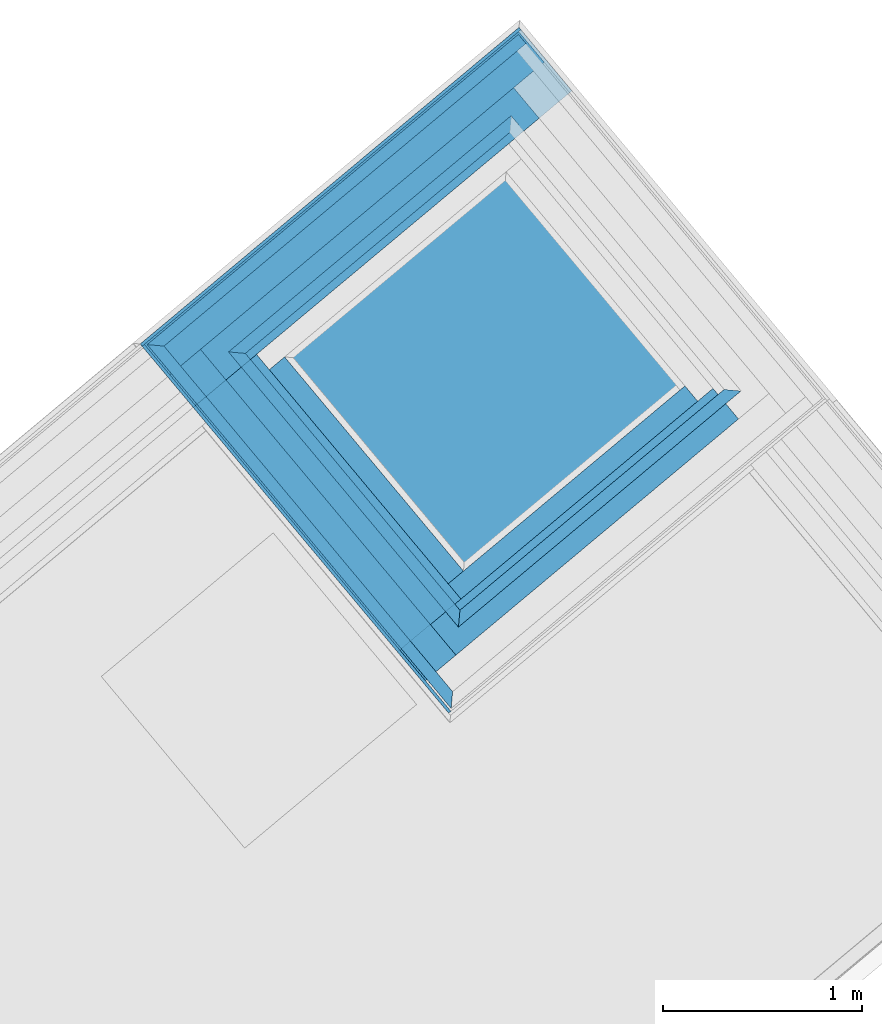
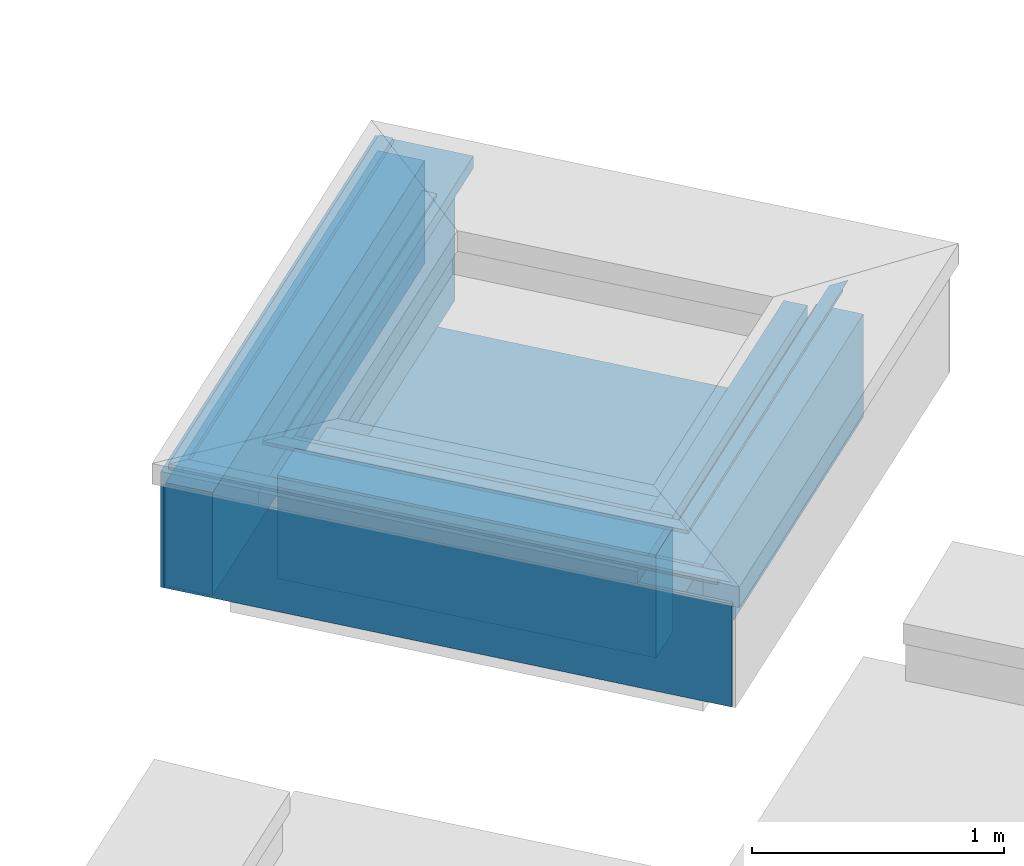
# One storey, part 11 of 15: 17 building element parts, 4 elements without a shape of their own.
"""IFC4 building model written with IfcOpenShell, lengths in metres."""

from ifc_helpers import new_model, entity, si_unit, converted_unit, derived_unit, direction, frame, origin_with_axes, place, context, subcontext, project, spatial, polygons, material, type_object, element, aggregate, save


model = new_model("IFC4")

# Units and contexts
model_context = context("Model", 3, precision=1e-05, world=origin_with_axes(), true_north=direction((0.0, 1.0)))
body_context = subcontext(model_context, "Body", "Model", "MODEL_VIEW")
ifc_project = project(units=[si_unit("LENGTHUNIT", "METRE"), si_unit("AREAUNIT", "SQUARE_METRE"), si_unit("VOLUMEUNIT", "CUBIC_METRE"), converted_unit("PLANEANGLEUNIT", "DEGREE", entity("IfcPlaneAngleMeasure", 0.0174532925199), si_unit("PLANEANGLEUNIT", "RADIAN"), dimensions=[0, 0, 0, 0, 0, 0, 0]), converted_unit("TIMEUNIT", "Year", entity("IfcTimeMeasure", 31556926.0), si_unit("TIMEUNIT", "SECOND"), dimensions=[0, 0, 1, 0, 0, 0, 0]), si_unit("MASSUNIT", "GRAM", prefix="KILO"), si_unit("THERMODYNAMICTEMPERATUREUNIT", "DEGREE_CELSIUS"), si_unit("LUMINOUSINTENSITYUNIT", "LUMEN"), si_unit("ENERGYUNIT", "JOULE", prefix="MEGA"), derived_unit("THERMALCONDUCTANCEUNIT", [(si_unit("POWERUNIT", "WATT"), 1), (si_unit("LENGTHUNIT", "METRE"), -1), (si_unit("THERMODYNAMICTEMPERATUREUNIT", "KELVIN"), -1)]), derived_unit("SPECIFICHEATCAPACITYUNIT", [(si_unit("ENERGYUNIT", "JOULE"), 1), (si_unit("MASSUNIT", "GRAM", prefix="KILO"), -1), (si_unit("THERMODYNAMICTEMPERATUREUNIT", "KELVIN"), -1)]), derived_unit("MASSDENSITYUNIT", [(si_unit("MASSUNIT", "GRAM", prefix="KILO"), 1), (si_unit("VOLUMEUNIT", "CUBIC_METRE"), -1)])], contexts=[model_context])

# Site, building, storey
site_placement = place(None, frame((-0.00153261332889, -0.00661245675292, 0.0), z_axis=(0.0, 0.0, 1.0), x_axis=(1.0, 0.0, 0.0)))
site = spatial("IfcSite", under=ifc_project, at=site_placement, Name="Site", CompositionType="ELEMENT")
building_placement = place(site_placement, origin_with_axes())
building = spatial("IfcBuilding", under=site, at=building_placement, Name="Building", CompositionType="ELEMENT")
storey_placement = place(building_placement, frame((0.0, 0.0, 11.84), z_axis=(0.0, 0.0, 1.0), x_axis=(1.0, 0.0, 0.0)))
storey = spatial("IfcBuildingStorey", under=building, at=storey_placement, Name="DA", CompositionType="ELEMENT", Elevation=11.84)

# Wall, building element parts
wall_type = type_object("IfcWallType", Name="Bauteil - Attika 574 x 610", PredefinedType="NOTDEFINED")
wall_1_placement = place(storey_placement, frame((1.33818690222, 24.5040825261, 0.96), z_axis=(0.0, 0.0, 1.0), x_axis=(0.767364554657, 0.641211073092, 0.0)))
wall_1 = element("IfcWall", 1, at=wall_1_placement, inside=storey, type_object=wall_type, Name="Wand-002", PredefinedType="NOTDEFINED")
ifc_material_1 = material(Name="EPS 1")
building_element_part_1_placement = place(wall_1_placement, origin_with_axes())
building_element_part_1 = element("IfcBuildingElementPart", 2, at=building_element_part_1_placement, material=ifc_material_1, Name="EPS 1", PredefinedType="NOTDEFINED", context=body_context, shape_type="Tessellation", body=[
    polygons([(0.200019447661, 0.30000000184, 0.560000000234), (0.200012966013, 0.200000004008, 0.560000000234), (1.7496829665, 0.200000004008, 0.560000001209), (1.74968315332, 0.30000000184, 0.560000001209), (0.200012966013, 0.200000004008, 0.519224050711), (0.200019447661, 0.30000000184, 0.519224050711), (0.200012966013, 0.200000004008, 0.51136132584), (0.200012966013, 0.200000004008, 0.509050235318), (0.200012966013, 0.200000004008, 0.499999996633), (0.200012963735, 0.200000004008, 0.498822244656), (0.200012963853, 0.200000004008, 0.491006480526), (0.200012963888, 0.200000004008, 0.488695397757), (0.200012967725, 0.200000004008, 0.235000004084), (1.7496829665, 0.200000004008, 0.235000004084), (1.7496829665, 0.200000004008, 0.488695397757), (1.7496829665, 0.200000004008, 0.491006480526), (1.7496829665, 0.200000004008, 0.498822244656), (1.7496829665, 0.200000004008, 0.499999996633), (1.7496829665, 0.200000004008, 0.509050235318), (1.7496829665, 0.200000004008, 0.51136132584), (1.7496829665, 0.200000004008, 0.519224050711), (1.74968315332, 0.30000000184, 0.519224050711), (1.74968315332, 0.30000000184, 0.51136132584), (1.74968315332, 0.30000000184, 0.509050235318), (1.74968315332, 0.30000000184, 0.499999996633), (1.74968315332, 0.30000000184, 0.498822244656), (1.74968315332, 0.30000000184, 0.491006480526), (1.74968315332, 0.30000000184, 0.488695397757), (1.74968315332, 0.30000000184, 0.235000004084), (0.200019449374, 0.30000000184, 0.235000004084), (0.200019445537, 0.30000000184, 0.488695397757), (0.200019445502, 0.30000000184, 0.491006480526), (0.200019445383, 0.30000000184, 0.498822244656), (0.200019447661, 0.30000000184, 0.499999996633), (0.200019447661, 0.30000000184, 0.509050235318), (0.200019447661, 0.30000000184, 0.51136132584)], [[[1, 2, 3, 4]], [[5, 2, 1, 6]], [[2, 5, 7, 8, 9, 10, 11, 12, 13, 14, 15, 16, 17, 18, 19, 20, 21, 3]], [[4, 3, 21, 22]], [[6, 1, 4, 22, 23, 24, 25, 26, 27, 28, 29, 30, 31, 32, 33, 34, 35, 36]], [[5, 6, 36, 7]], [[7, 36, 35, 8]], [[8, 35, 34, 9]], [[9, 34, 33, 10]], [[10, 33, 32, 11]], [[11, 32, 31, 12]], [[12, 31, 30, 13]], [[13, 30, 29, 14]], [[28, 15, 14, 29]], [[27, 16, 15, 28]], [[26, 17, 16, 27]], [[25, 18, 17, 26]], [[24, 19, 18, 25]], [[23, 20, 19, 24]], [[22, 21, 20, 23]]], closed=True),
])
ifc_material_2 = material(Name="Vollholz")
building_element_part_2_placement = place(wall_1_placement, origin_with_axes())
building_element_part_2 = element("IfcBuildingElementPart", 3, at=building_element_part_2_placement, material=ifc_material_2, Name="Vollholz", PredefinedType="NOTDEFINED", context=body_context, shape_type="Tessellation", body=[
    polygons([(0.100010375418, 0.160110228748, 0.573880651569), (0.100006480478, 0.1, 0.575979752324), (1.94968278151, 0.1, 0.575979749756), (1.88957266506, 0.160110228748, 0.573880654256), (0.100006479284, 0.1, 0.573880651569), (0.100006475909, 0.1, 0.567947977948), (0.100006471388, 0.1, 0.560000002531), (1.88968278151, 0.1, 0.560000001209), (1.88961966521, 0.1, 0.567947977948), (1.88957255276, 0.1, 0.573880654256), (1.88961977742, 0.160063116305, 0.567947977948), (1.88968289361, 0.16, 0.560000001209), (0.100010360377, 0.16, 0.560000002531), (0.100010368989, 0.160063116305, 0.567947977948)], [[[1, 2, 3, 4]], [[5, 2, 1]], [[2, 5, 6, 7, 8, 9, 10, 3]], [[10, 4, 3]], [[11, 12, 13, 14, 1, 4]], [[5, 1, 14, 6]], [[7, 6, 14, 13]], [[12, 8, 7, 13]], [[12, 11, 9, 8]], [[4, 10, 9, 11]]], closed=True),
])
ifc_material_3 = material(Name="Stahlbeton Wand Garage")
building_element_part_3_placement = place(wall_1_placement, origin_with_axes())
building_element_part_3 = element("IfcBuildingElementPart", 4, at=building_element_part_3_placement, material=ifc_material_3, Name="Stahlbeton Wand Garage", PredefinedType="NOTDEFINED", context=body_context, shape_type="Tessellation", body=[
    polygons([(1.29654635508e-05, 0.2, 0.5), (2.16659046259e-09, 0.0, 0.5), (1.84968259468, 0.0, 0.5), (1.84968296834, 0.2, 0.5), (2.16658690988e-09, 0.0, 0.498822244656), (1.29654641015e-05, 0.200000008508, 0.498822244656), (2.16657625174e-09, -1.53391965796e-10, 0.491006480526), (2.16657625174e-09, -1.92805771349e-10, 0.488695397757), (2.16629203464e-09, -4.51978010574e-09, 0.235000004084), (2.16658690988e-09, 0.0, 0.0), (1.84968259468, 0.0, 0.0), (1.84968259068, -4.51978010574e-09, 0.235000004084), (1.84968259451, -1.92805771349e-10, 0.488695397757), (1.84968259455, -1.53388413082e-10, 0.491006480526), (1.84968259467, 0.0, 0.498822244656), (1.84968296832, 0.200000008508, 0.498822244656), (1.8496829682, 0.200000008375, 0.491006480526), (1.84968296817, 0.200000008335, 0.488695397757), (1.84968296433, 0.200000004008, 0.235000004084), (1.29654638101e-05, 0.200000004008, 0.235000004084), (1.29654640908e-05, 0.200000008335, 0.488695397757), (1.29654640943e-05, 0.200000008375, 0.491006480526), (1.29654635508e-05, 0.2, 0.0), (1.84968296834, 0.2, 0.0)], [[[1, 2, 3, 4]], [[5, 2, 1, 6]], [[2, 5, 7, 8, 9, 10, 11, 12, 13, 14, 15, 3]], [[4, 3, 15, 16]], [[6, 1, 4, 16, 17, 18, 19, 20, 21, 22]], [[5, 6, 22, 7]], [[7, 22, 21, 8]], [[8, 21, 20, 9]], [[9, 20, 23, 10]], [[10, 23, 24, 11]], [[19, 12, 11, 24]], [[18, 13, 12, 19]], [[17, 14, 13, 18]], [[16, 15, 14, 17]], [[23, 20, 19, 24]]], closed=True),
])
aggregate(wall_1, [building_element_part_1, building_element_part_2, building_element_part_3])

# Roof, building element part
roof_type = type_object("IfcRoofType", Name="Flachdach Kies Dachaufbau 360", PredefinedType="NOTDEFINED")
roof_placement = place(storey_placement, frame((2.91104067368, 25.8183617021, 0.95), z_axis=(0.0, 0.0, 1.0), x_axis=(-0.767364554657, -0.641211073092, 0.0)))
roof = element("IfcRoof", 5, at=roof_placement, inside=storey, type_object=roof_type, Name="Dach-002", PredefinedType="NOTDEFINED")
ifc_material_4 = material(Name="Folie")
building_element_part_4_placement = place(roof_placement, origin_with_axes())
building_element_part_4 = element("IfcBuildingElementPart", 6, at=building_element_part_4_placement, material=ifc_material_4, Name="Folie", PredefinedType="NOTDEFINED", context=body_context, shape_type="Tessellation", body=[
    polygons([(0.199999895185, -0.205028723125, 0.0), (0.199996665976, -1.80114454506, 0.0), (0.199996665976, -1.80114454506, 0.015), (0.199999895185, -0.205028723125, 0.015), (1.84966960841, -0.200003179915, 0.0), (1.84456614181, -1.80114786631, 0.0), (1.84456614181, -1.80114786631, 0.015), (1.84966960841, -0.200003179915, 0.015)], [[[1, 2, 3, 4]], [[1, 5, 6, 2]], [[2, 6, 7, 3]], [[4, 3, 7, 8]], [[5, 1, 4, 8]], [[6, 5, 8, 7]]], closed=True),
])
aggregate(roof, [building_element_part_4])

# Wall, building element parts
wall_2_placement = place(storey_placement, frame((1.33818690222, 24.5040825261, 0.96), z_axis=(0.0, 0.0, 1.0), x_axis=(-0.641161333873, 0.767406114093, 0.0)))
wall_2 = element("IfcWall", 7, at=wall_2_placement, inside=storey, type_object=wall_type, Name="Wand-002", PredefinedType="NOTDEFINED")
ifc_material_5 = material(Name="Zementputz")
building_element_part_5_placement = place(wall_2_placement, origin_with_axes())
building_element_part_5 = element("IfcBuildingElementPart", 8, at=building_element_part_5_placement, material=ifc_material_5, Name="Zementputz", PredefinedType="NOTDEFINED", context=body_context, shape_type="Tessellation", body=[
    polygons([(-0.200013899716, 0.214999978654, 0.5), (-0.200012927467, 0.199999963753, 0.5), (2.2011356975, 0.199999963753, 0.5), (2.20113475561, 0.214999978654, 0.5), (-0.200012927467, 0.199999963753, 0.498822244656), (-0.200013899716, 0.214999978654, 0.498822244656), (-0.200012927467, 0.199999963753, 0.491006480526), (-0.200012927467, 0.199999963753, 0.488695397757), (-0.200012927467, 0.199999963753, 0.235000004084), (-0.200012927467, 0.199999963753, 0.0), (2.2011356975, 0.199999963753, 0.0), (2.2011356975, 0.199999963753, 0.235000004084), (2.2011356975, 0.199999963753, 0.488695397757), (2.2011356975, 0.199999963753, 0.491006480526), (2.2011356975, 0.199999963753, 0.498822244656), (2.20113475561, 0.214999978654, 0.498822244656), (2.20113475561, 0.214999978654, 0.491006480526), (2.20113475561, 0.214999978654, 0.488695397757), (2.20113475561, 0.214999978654, 0.235000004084), (2.20113475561, 0.214999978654, 0.0), (-0.200013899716, 0.214999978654, 0.0), (-0.200013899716, 0.214999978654, 0.235000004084), (-0.200013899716, 0.214999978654, 0.488695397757), (-0.200013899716, 0.214999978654, 0.491006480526)], [[[1, 2, 3, 4]], [[5, 2, 1, 6]], [[2, 5, 7, 8, 9, 10, 11, 12, 13, 14, 15, 3]], [[4, 3, 15, 16]], [[6, 1, 4, 16, 17, 18, 19, 20, 21, 22, 23, 24]], [[5, 6, 24, 7]], [[7, 24, 23, 8]], [[8, 23, 22, 9]], [[9, 22, 21, 10]], [[10, 21, 20, 11]], [[19, 12, 11, 20]], [[18, 13, 12, 19]], [[17, 14, 13, 18]], [[16, 15, 14, 17]]], closed=True),
])
building_element_part_6_placement = place(wall_2_placement, origin_with_axes())
building_element_part_6 = element("IfcBuildingElementPart", 9, at=building_element_part_6_placement, material=ifc_material_2, Name="Vollholz", PredefinedType="NOTDEFINED", context=body_context, shape_type="Tessellation", body=[
    polygons([(2.13126133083, 0.190124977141, 0.560000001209), (2.13126509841, 0.130124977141, 0.560000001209), (-0.130133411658, 0.130124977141, 0.560000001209), (-0.130137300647, 0.190124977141, 0.560000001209), (2.13126133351, 0.19008233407, 0.567947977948), (2.13126509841, 0.130124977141, 0.567947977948), (2.13126509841, 0.130124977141, 0.573880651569), (2.13126509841, 0.130124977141, 0.575979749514), (2.13126509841, 0.130124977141, 0.584015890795), (-0.130133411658, 0.130124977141, 0.584015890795), (-0.130133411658, 0.130124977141, 0.575979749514), (-0.130133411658, 0.130124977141, 0.573880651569), (-0.130133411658, 0.130124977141, 0.567947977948), (-0.130137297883, 0.19008233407, 0.567947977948), (-0.13013729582, 0.190050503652, 0.573880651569), (-0.13013729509, 0.190039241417, 0.575979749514), (-0.130137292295, 0.189996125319, 0.584015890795), (-0.189997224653, 0.189984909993, 0.586106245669), (2.19112153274, 0.189984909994, 0.586106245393), (2.13126133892, 0.189996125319, 0.584015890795), (2.13126133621, 0.190039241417, 0.575979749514), (2.13126133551, 0.190050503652, 0.573880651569)], [[[1, 2, 3, 4]], [[1, 5, 6, 2]], [[2, 6, 7, 8, 9, 10, 11, 12, 13, 3]], [[14, 4, 3, 13]], [[5, 1, 4, 14, 15, 16, 17, 18, 19, 20, 21, 22]], [[5, 22, 7, 6]], [[22, 21, 8, 7]], [[21, 20, 9, 8]], [[9, 19, 18, 10]], [[17, 16, 11, 10]], [[16, 15, 12, 11]], [[15, 14, 13, 12]], [[18, 17, 10]], [[9, 20, 19]]], closed=True),
])
building_element_part_7_placement = place(wall_2_placement, origin_with_axes())
building_element_part_7 = element("IfcBuildingElementPart", 10, at=building_element_part_7_placement, material=ifc_material_1, Name="EPS 1", PredefinedType="NOTDEFINED", context=body_context, shape_type="Tessellation", body=[
    polygons([(-1.2961127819e-05, 0.19999996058, 0.5), (2.16672901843e-09, -2.16659046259e-09, 0.5), (2.00114828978, -2.16659401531e-09, 0.5), (2.00113573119, 0.19999996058, 0.5), (2.16672901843e-09, -2.16659046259e-09, 0.498822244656), (-1.2961127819e-05, 0.19999996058, 0.498822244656), (2.16672546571e-09, -2.16659046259e-09, 0.491006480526), (2.16672546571e-09, -2.16659046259e-09, 0.488695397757), (2.16672546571e-09, -2.16659046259e-09, 0.235000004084), (2.16672546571e-09, -2.16659046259e-09, 0.0), (2.00114828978, -2.16659046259e-09, 0.0), (2.00114828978, -2.16659046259e-09, 0.235000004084), (2.00114828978, -2.16659046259e-09, 0.488695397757), (2.00114828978, -2.16659046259e-09, 0.491006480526), (2.00114828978, -2.16659046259e-09, 0.498822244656), (2.00113573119, 0.19999996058, 0.498822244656), (2.00113573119, 0.19999996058, 0.491006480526), (2.00113573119, 0.19999996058, 0.488695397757), (2.00113573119, 0.19999996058, 0.235000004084), (2.00113573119, 0.19999996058, 0.0), (-1.2961127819e-05, 0.19999996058, 0.0), (-1.2961127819e-05, 0.19999996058, 0.235000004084), (-1.2961127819e-05, 0.19999996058, 0.488695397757), (-1.2961127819e-05, 0.19999996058, 0.491006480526)], [[[1, 2, 3, 4]], [[5, 2, 1, 6]], [[2, 5, 7, 8, 9, 10, 11, 12, 13, 14, 15, 3]], [[4, 3, 15, 16]], [[6, 1, 4, 16, 17, 18, 19, 20, 21, 22, 23, 24]], [[5, 6, 24, 7]], [[7, 24, 23, 8]], [[8, 23, 22, 9]], [[9, 22, 21, 10]], [[10, 21, 20, 11]], [[19, 12, 11, 20]], [[18, 13, 12, 19]], [[17, 14, 13, 18]], [[16, 15, 14, 17]]], closed=True),
])
ifc_material_6 = material(Name="Brettschichtholz")
building_element_part_8_placement = place(wall_2_placement, origin_with_axes())
building_element_part_8 = element("IfcBuildingElementPart", 11, at=building_element_part_8_placement, material=ifc_material_6, Name="Brettschichtholz", PredefinedType="NOTDEFINED", context=body_context, shape_type="Tessellation", body=[
    polygons([(0.200010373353, -0.159999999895, 0.560000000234), (0.200012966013, -0.200000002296, 0.560000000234), (1.80116084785, -0.200000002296, 0.560000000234), (1.80115833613, -0.159999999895, 0.560000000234), (0.200012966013, -0.200000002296, 0.519224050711), (0.200006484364, -0.0999999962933, 0.560000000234), (0.199991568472, 0.130124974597, 0.560000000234), (0.199987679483, 0.190124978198, 0.560000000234), (0.199986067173, 0.214999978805, 0.560000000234), (0.199986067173, 0.214999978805, 0.519224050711), (0.200012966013, -0.200000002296, 0.51136132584), (0.200012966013, -0.200000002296, 0.509050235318), (0.200012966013, -0.200000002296, 0.499999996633), (1.80116084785, -0.200000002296, 0.499999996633), (1.80116084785, -0.200000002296, 0.509050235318), (1.80116084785, -0.200000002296, 0.51136132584), (1.80116084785, -0.200000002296, 0.519224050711), (1.80113478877, 0.214999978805, 0.519224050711), (1.80113478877, 0.214999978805, 0.560000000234), (1.80113635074, 0.190124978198, 0.560000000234), (1.80114011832, 0.130124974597, 0.560000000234), (1.80115456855, -0.0999999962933, 0.560000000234), (1.80113478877, 0.214999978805, 0.51136132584), (1.80113478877, 0.214999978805, 0.509050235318), (1.80113478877, 0.214999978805, 0.499999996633), (0.199986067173, 0.214999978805, 0.499999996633), (0.199986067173, 0.214999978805, 0.509050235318), (0.199986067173, 0.214999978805, 0.51136132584)], [[[1, 2, 3, 4]], [[5, 2, 1, 6, 7, 8, 9, 10]], [[2, 5, 11, 12, 13, 14, 15, 16, 17, 3]], [[4, 3, 17, 18, 19, 20, 21, 22]], [[6, 1, 4, 22]], [[7, 6, 22, 21]], [[8, 7, 21, 20]], [[9, 8, 20, 19]], [[10, 9, 19, 18, 23, 24, 25, 26, 27, 28]], [[5, 10, 28, 11]], [[11, 28, 27, 12]], [[12, 27, 26, 13]], [[13, 26, 25, 14]], [[24, 15, 14, 25]], [[23, 16, 15, 24]], [[18, 17, 16, 23]]], closed=True),
])
building_element_part_9_placement = place(wall_2_placement, origin_with_axes())
building_element_part_9 = element("IfcBuildingElementPart", 12, at=building_element_part_9_placement, material=ifc_material_3, Name="Stahlbeton Wand Garage", PredefinedType="NOTDEFINED", context=body_context, shape_type="Tessellation", body=[
    polygons([(0.20000000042, 0.0, 0.5), (0.200012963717, -0.2, 0.5), (1.80116085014, -0.2, 0.5), (1.80114829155, 0.0, 0.5), (0.200012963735, -0.2, 0.498822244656), (0.200000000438, 0.0, 0.498822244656), (0.200012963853, -0.2, 0.491006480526), (0.200012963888, -0.2, 0.488695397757), (0.200012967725, -0.200000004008, 0.235000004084), (1.80116084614, -0.200000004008, 0.235000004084), (1.80116084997, -0.2, 0.488695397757), (1.80116085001, -0.2, 0.491006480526), (1.80116085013, -0.2, 0.498822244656), (1.80114829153, 0.0, 0.498822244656), (1.80114829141, 0.0, 0.491006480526), (1.80114829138, 0.0, 0.488695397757), (1.80114828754, 0.0, 0.235000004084), (1.80114829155, 0.0, 0.0), (0.20000000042, 0.0, 0.0), (0.200000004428, 0.0, 0.235000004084), (0.200000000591, 0.0, 0.488695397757), (0.200000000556, 0.0, 0.491006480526), (0.200012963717, -0.2, 0.0), (1.80116085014, -0.2, 0.0)], [[[1, 2, 3, 4]], [[5, 2, 1, 6]], [[2, 5, 7, 8, 9, 10, 11, 12, 13, 3]], [[4, 3, 13, 14]], [[6, 1, 4, 14, 15, 16, 17, 18, 19, 20, 21, 22]], [[5, 6, 22, 7]], [[7, 22, 21, 8]], [[8, 21, 20, 9]], [[9, 23, 24, 10]], [[16, 11, 10, 17]], [[15, 12, 11, 16]], [[14, 13, 12, 15]], [[17, 10, 24, 18]], [[23, 19, 18, 24]], [[9, 20, 19, 23]]], closed=True),
])
building_element_part_10_placement = place(wall_2_placement, origin_with_axes())
building_element_part_10 = element("IfcBuildingElementPart", 13, at=building_element_part_10_placement, material=ifc_material_2, Name="Vollholz", PredefinedType="NOTDEFINED", context=body_context, shape_type="Tessellation", body=[
    polygons([(0.100006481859, -0.100000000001, 0.575979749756), (0.160120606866, -0.160110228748, 0.573880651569), (1.84104811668, -0.160110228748, 0.573880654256), (1.90115457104, -0.1, 0.575979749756), (0.160116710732, -0.1, 0.573880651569), (0.160010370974, -0.16, 0.560000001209), (1.8411583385, -0.16, 0.560000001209), (1.84109522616, -0.160063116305, 0.567947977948), (0.16007349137, -0.160063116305, 0.567947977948), (1.84104434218, -0.1, 0.573880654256), (1.84109145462, -0.1, 0.567947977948), (1.84115457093, -0.1, 0.560000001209), (0.160006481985, -0.1, 0.560000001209), (0.16006959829, -0.1, 0.567947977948)], [[[1, 2, 3, 4]], [[5, 2, 1]], [[6, 7, 8, 3, 2, 9]], [[3, 10, 4]], [[5, 1, 4, 10, 11, 12, 13, 14]], [[2, 5, 14, 9]], [[6, 13, 12, 7]], [[8, 7, 12, 11]], [[11, 10, 3, 8]], [[13, 6, 9, 14]]], closed=True),
])
building_element_part_11_placement = place(wall_2_placement, origin_with_axes())
building_element_part_11 = element("IfcBuildingElementPart", 14, at=building_element_part_11_placement, material=ifc_material_1, Name="EPS 1", PredefinedType="NOTDEFINED", context=body_context, shape_type="Tessellation", body=[
    polygons([(0.300012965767, -0.200000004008, 0.560000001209), (0.300019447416, -0.30000000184, 0.560000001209), (1.7011671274, -0.30000000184, 0.560000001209), (1.70116084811, -0.200000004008, 0.560000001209), (0.300019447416, -0.30000000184, 0.519224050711), (0.300012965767, -0.200000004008, 0.519224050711), (0.300019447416, -0.30000000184, 0.51136132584), (0.300019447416, -0.30000000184, 0.509050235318), (0.300019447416, -0.30000000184, 0.499999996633), (0.300019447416, -0.30000000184, 0.498822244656), (0.300019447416, -0.30000000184, 0.491006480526), (0.300019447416, -0.30000000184, 0.488695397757), (0.300019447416, -0.30000000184, 0.235000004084), (1.7011671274, -0.30000000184, 0.235000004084), (1.7011671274, -0.30000000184, 0.488695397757), (1.7011671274, -0.30000000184, 0.491006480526), (1.7011671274, -0.30000000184, 0.498822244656), (1.7011671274, -0.30000000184, 0.499999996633), (1.7011671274, -0.30000000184, 0.509050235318), (1.7011671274, -0.30000000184, 0.51136132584), (1.7011671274, -0.30000000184, 0.519224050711), (1.70116084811, -0.200000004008, 0.519224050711), (1.70116084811, -0.200000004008, 0.51136132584), (1.70116084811, -0.200000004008, 0.509050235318), (1.70116084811, -0.200000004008, 0.499999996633), (1.70116084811, -0.200000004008, 0.498822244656), (1.70116084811, -0.200000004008, 0.491006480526), (1.70116084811, -0.200000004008, 0.488695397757), (1.70116084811, -0.200000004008, 0.235000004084), (0.300012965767, -0.200000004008, 0.235000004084), (0.300012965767, -0.200000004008, 0.488695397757), (0.300012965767, -0.200000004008, 0.491006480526), (0.300012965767, -0.200000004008, 0.498822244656), (0.300012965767, -0.200000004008, 0.499999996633), (0.300012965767, -0.200000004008, 0.509050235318), (0.300012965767, -0.200000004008, 0.51136132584)], [[[1, 2, 3, 4]], [[5, 2, 1, 6]], [[2, 5, 7, 8, 9, 10, 11, 12, 13, 14, 15, 16, 17, 18, 19, 20, 21, 3]], [[4, 3, 21, 22]], [[6, 1, 4, 22, 23, 24, 25, 26, 27, 28, 29, 30, 31, 32, 33, 34, 35, 36]], [[5, 6, 36, 7]], [[7, 36, 35, 8]], [[8, 35, 34, 9]], [[9, 34, 33, 10]], [[10, 33, 32, 11]], [[11, 32, 31, 12]], [[12, 31, 30, 13]], [[13, 30, 29, 14]], [[28, 15, 14, 29]], [[27, 16, 15, 28]], [[26, 17, 16, 27]], [[25, 18, 17, 26]], [[24, 19, 18, 25]], [[23, 20, 19, 24]], [[22, 21, 20, 23]]], closed=True),
])
aggregate(wall_2, [building_element_part_5, building_element_part_6, building_element_part_7, building_element_part_8, building_element_part_9, building_element_part_10, building_element_part_11])

wall_3_placement = place(storey_placement, frame((0.0551279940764, 26.0397759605, 0.96), z_axis=(0.0, 0.0, 1.0), x_axis=(0.767365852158, 0.641209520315, 0.0)))
wall_3 = element("IfcWall", 15, at=wall_3_placement, inside=storey, type_object=wall_type, Name="Wand-002", PredefinedType="NOTDEFINED")
building_element_part_12_placement = place(wall_3_placement, origin_with_axes())
building_element_part_12 = element("IfcBuildingElementPart", 16, at=building_element_part_12_placement, material=ifc_material_5, Name="Zementputz", PredefinedType="NOTDEFINED", context=body_context, shape_type="Tessellation", body=[
    polygons([(-0.2149864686, 0.214999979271, 0.50000001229), (-0.214987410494, 0.19999996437, 0.50000001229), (2.26455656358, 0.199999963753, 0.50000001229), (2.26455656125, 0.214999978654, 0.50000001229), (-0.214984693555, 0.199999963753, 0.0), (-0.214983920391, 0.214999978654, 0.0), (2.26455656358, 0.199999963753, 0.0), (2.26455656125, 0.214999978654, 0.0)], [[[1, 2, 3, 4]], [[5, 2, 1, 6]], [[2, 5, 7, 3]], [[3, 7, 8, 4]], [[6, 1, 4, 8]], [[5, 6, 8, 7]]], closed=True),
])
building_element_part_13_placement = place(wall_3_placement, origin_with_axes())
building_element_part_13 = element("IfcBuildingElementPart", 17, at=building_element_part_13_placement, material=ifc_material_2, Name="Vollholz", PredefinedType="NOTDEFINED", context=body_context, shape_type="Tessellation", body=[
    polygons([(-0.18997324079, 0.189984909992, 0.586106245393), (-0.189987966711, 0.130124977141, 0.584015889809), (2.23955274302, 0.130124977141, 0.584015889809), (2.23954176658, 0.189984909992, 0.586106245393), (-0.189984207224, 0.189996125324, 0.584015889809), (2.23963894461, 0.130124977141, 0.567947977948), (2.23960711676, 0.130124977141, 0.573880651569), (2.23959585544, 0.130124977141, 0.575979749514), (-0.190031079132, 0.130124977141, 0.575979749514), (-0.190042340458, 0.130124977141, 0.573880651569), (-0.190074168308, 0.130124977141, 0.567947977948), (-0.190116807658, 0.130124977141, 0.560000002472), (2.23968158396, 0.130124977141, 0.560000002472), (2.23955273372, 0.189996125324, 0.584015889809), (2.23959584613, 0.190039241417, 0.575979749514), (2.23960710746, 0.190050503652, 0.573880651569), (2.2396389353, 0.190082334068, 0.567947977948), (2.23968157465, 0.190124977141, 0.560000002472), (-0.19011304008, 0.190124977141, 0.560000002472), (-0.190070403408, 0.190082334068, 0.567947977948), (-0.190038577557, 0.190050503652, 0.573880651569), (-0.190027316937, 0.190039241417, 0.575979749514)], [[[1, 2, 3, 4]], [[5, 2, 1]], [[6, 7, 8, 3, 2, 9, 10, 11, 12, 13]], [[3, 14, 4]], [[5, 1, 4, 14, 15, 16, 17, 18, 19, 20, 21, 22]], [[2, 5, 22, 9]], [[6, 17, 16, 7]], [[7, 16, 15, 8]], [[8, 15, 14, 3]], [[9, 22, 21, 10]], [[10, 21, 20, 11]], [[11, 20, 19, 12]], [[12, 19, 18, 13]], [[13, 18, 17, 6]]], closed=True),
])
building_element_part_14_placement = place(wall_3_placement, origin_with_axes())
building_element_part_14 = element("IfcBuildingElementPart", 18, at=building_element_part_14_placement, material=ifc_material_1, Name="EPS 1", PredefinedType="NOTDEFINED", context=body_context, shape_type="Tessellation", body=[
    polygons([(-0.199987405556, 0.199999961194, 0.5), (-0.199999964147, -1.55327128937e-09, 0.5), (2.2495565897, -2.16285656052e-09, 0.5), (2.24955655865, 0.199999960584, 0.5), (-0.199999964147, -1.54953738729e-09, 0.498822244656), (-0.199987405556, 0.19999996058, 0.498822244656), (-0.199999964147, -1.54953738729e-09, 0.491006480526), (-0.199999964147, -1.54953738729e-09, 0.488695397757), (-0.199999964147, -1.54953738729e-09, 0.235000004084), (-0.199999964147, -2.16658690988e-09, 0.0), (2.2495565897, -2.16659046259e-09, 0.0), (2.2495565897, -1.54954094e-09, 0.235000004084), (2.2495565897, -1.54954094e-09, 0.488695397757), (2.2495565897, -1.54954094e-09, 0.491006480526), (2.2495565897, -1.54954094e-09, 0.498822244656), (2.24955655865, 0.19999996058, 0.498822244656), (2.24955655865, 0.19999996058, 0.491006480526), (2.24955655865, 0.19999996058, 0.488695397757), (2.24955655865, 0.19999996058, 0.235000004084), (2.24955655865, 0.19999996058, 0.0), (-0.199987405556, 0.19999996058, 0.0), (-0.199987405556, 0.19999996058, 0.235000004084), (-0.199987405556, 0.19999996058, 0.488695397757), (-0.199987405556, 0.19999996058, 0.491006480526)], [[[1, 2, 3, 4]], [[5, 2, 1, 6]], [[2, 5, 7, 8, 9, 10, 11, 12, 13, 14, 15, 3]], [[16, 4, 3, 15]], [[6, 1, 4, 16, 17, 18, 19, 20, 21, 22, 23, 24]], [[5, 6, 24, 7]], [[23, 8, 7, 24]], [[8, 23, 22, 9]], [[21, 10, 9, 22]], [[10, 21, 20, 11]], [[12, 11, 20, 19]], [[19, 18, 13, 12]], [[14, 13, 18, 17]], [[17, 16, 15, 14]]], closed=True),
])
building_element_part_15_placement = place(wall_3_placement, origin_with_axes())
building_element_part_15 = element("IfcBuildingElementPart", 19, at=building_element_part_15_placement, material=ifc_material_6, Name="Brettschichtholz", PredefinedType="NOTDEFINED", context=body_context, shape_type="Tessellation", body=[
    polygons([(-0.215010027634, -0.159999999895, 0.560000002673), (-0.215012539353, -0.200000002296, 0.560000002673), (2.26455663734, -0.200000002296, 0.560000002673), (2.26455663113, -0.159999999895, 0.560000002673), (-0.215012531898, -0.200000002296, 0.519224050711), (-0.215006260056, -0.0999999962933, 0.560000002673), (-0.214991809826, 0.130124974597, 0.560000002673), (-0.214988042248, 0.190124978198, 0.560000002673), (-0.214986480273, 0.214999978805, 0.560000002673), (-0.214986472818, 0.214999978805, 0.519224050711), (-0.215012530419, -0.200000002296, 0.51136132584), (-0.21500531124, -0.200000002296, 0.50905023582), (-0.21501252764, -0.200000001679, 0.50000001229), (2.26455662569, -0.200000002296, 0.50000001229), (2.26455662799, -0.200000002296, 0.509050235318), (2.2645566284, -0.200000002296, 0.51136132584), (2.26455662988, -0.200000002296, 0.519224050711), (2.26455658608, 0.130124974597, 0.560000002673), (2.26455662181, -0.0999999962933, 0.560000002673), (2.26455656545, 0.214999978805, 0.519224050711), (2.2645565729, 0.214999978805, 0.560000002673), (2.26455657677, 0.190124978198, 0.560000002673), (2.26455656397, 0.214999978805, 0.51136132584), (2.26455656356, 0.214999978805, 0.509050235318), (2.26455656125, 0.214999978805, 0.50000001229), (-0.2149864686, 0.214999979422, 0.50000001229), (-0.214986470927, 0.214999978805, 0.509050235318), (-0.214986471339, 0.214999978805, 0.51136132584)], [[[1, 2, 3, 4]], [[5, 2, 1, 6, 7, 8, 9, 10]], [[2, 5, 11, 12, 13, 14, 15, 16, 17, 3]], [[18, 19, 4, 3, 17, 20, 21, 22]], [[6, 1, 4, 19]], [[7, 6, 19, 18]], [[8, 7, 18, 22]], [[9, 8, 22, 21]], [[10, 9, 21, 20, 23, 24, 25, 26, 27, 28]], [[5, 10, 28, 11]], [[12, 11, 27]], [[12, 26, 13]], [[25, 14, 13, 26]], [[14, 25, 24, 15]], [[23, 16, 15, 24]], [[16, 23, 20, 17]], [[26, 12, 27]], [[27, 11, 28]]], closed=True),
])
building_element_part_16_placement = place(wall_3_placement, origin_with_axes())
building_element_part_16 = element("IfcBuildingElementPart", 20, at=building_element_part_16_placement, material=ifc_material_3, Name="Stahlbeton Wand Garage", PredefinedType="NOTDEFINED", context=body_context, shape_type="Tessellation", body=[
    polygons([(2.16662243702e-09, 5.635492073e-10, 0.5), (-1.25564266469e-05, -0.199999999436, 0.5), (2.04955665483, -0.199999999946, 0.5), (2.04955662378, 0.0, 0.5), (-1.25564266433e-05, -0.199999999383, 0.498822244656), (2.16659046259e-09, 0.0, 0.498822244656), (-1.25564266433e-05, -0.199999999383, 0.491006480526), (-1.25564266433e-05, -0.199999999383, 0.488695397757), (-1.25564269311e-05, -0.200000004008, 0.235000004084), (2.04955665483, -0.200000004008, 0.235000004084), (2.04955665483, -0.199999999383, 0.488695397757), (2.04955665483, -0.199999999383, 0.491006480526), (2.04955665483, -0.199999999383, 0.498822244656), (2.04955662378, 0.0, 0.498822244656), (2.04955662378, 0.0, 0.491006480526), (2.04955662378, 0.0, 0.488695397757), (2.04955662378, 0.0, 0.235000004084), (2.04955662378, 0.0, 0.0), (2.16659046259e-09, 0.0, 0.0), (2.16659046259e-09, 0.0, 0.235000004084), (2.16659046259e-09, 0.0, 0.488695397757), (2.16659046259e-09, 0.0, 0.491006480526), (-1.25564266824e-05, -0.2, 0.0), (2.04955665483, -0.2, 0.0)], [[[1, 2, 3, 4]], [[5, 2, 1, 6]], [[2, 5, 7, 8, 9, 10, 11, 12, 13, 3]], [[13, 14, 4, 3]], [[6, 1, 4, 14, 15, 16, 17, 18, 19, 20, 21, 22]], [[5, 6, 22, 7]], [[7, 22, 21, 8]], [[8, 21, 20, 9]], [[9, 23, 24, 10]], [[10, 17, 16, 11]], [[11, 16, 15, 12]], [[12, 15, 14, 13]], [[24, 18, 17, 10]], [[23, 19, 18, 24]], [[9, 20, 19, 23]]], closed=True),
])
building_element_part_17_placement = place(wall_3_placement, origin_with_axes())
building_element_part_17 = element("IfcBuildingElementPart", 21, at=building_element_part_17_placement, material=ifc_material_2, Name="Vollholz", PredefinedType="NOTDEFINED", context=body_context, shape_type="Tessellation", body=[
    polygons([(0.09999371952, -0.1, 0.575979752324), (0.0999899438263, -0.160110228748, 0.573880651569), (1.94955665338, -0.160110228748, 0.573880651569), (1.94955664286, -0.1, 0.575979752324), (0.0999937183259, -0.1, 0.573880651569), (1.94955665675, -0.160063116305, 0.567947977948), (0.09998994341, -0.160063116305, 0.567947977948), (0.0999899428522, -0.16, 0.560000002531), (1.94955666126, -0.16, 0.560000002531), (1.94955664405, -0.1, 0.573880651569), (1.94955664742, -0.1, 0.567947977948), (1.94955665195, -0.1, 0.560000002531), (0.0999937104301, -0.1, 0.560000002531), (0.0999937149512, -0.1, 0.567947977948)], [[[1, 2, 3, 4]], [[5, 2, 1]], [[6, 3, 2, 7, 8, 9]], [[10, 4, 3]], [[5, 1, 4, 10, 11, 12, 13, 14]], [[2, 5, 14, 7]], [[10, 3, 6, 11]], [[7, 14, 13, 8]], [[8, 13, 12, 9]], [[11, 6, 9, 12]]], closed=True),
])
aggregate(wall_3, [building_element_part_12, building_element_part_13, building_element_part_14, building_element_part_15, building_element_part_16, building_element_part_17])

save(model, "model.ifc")
